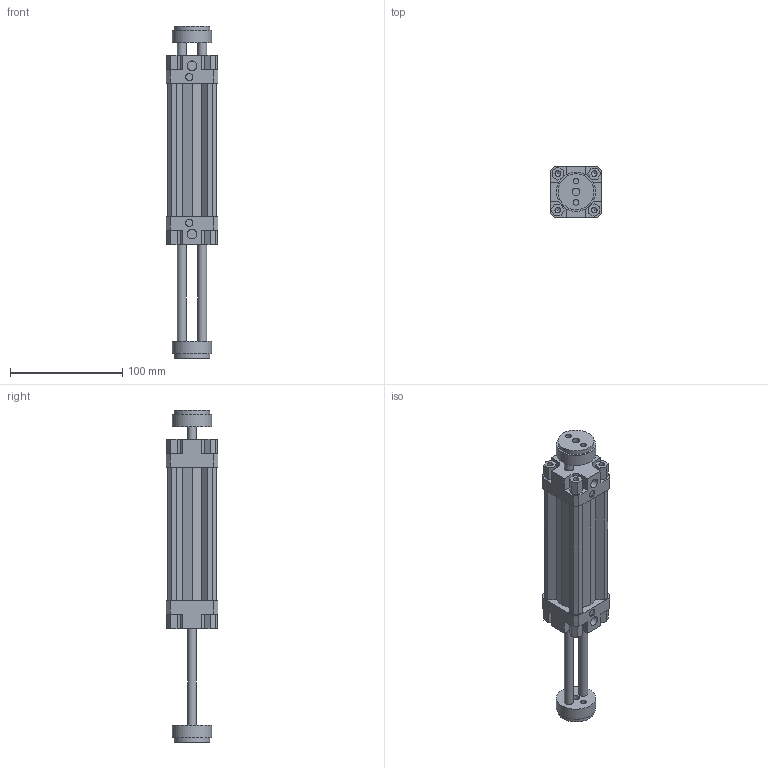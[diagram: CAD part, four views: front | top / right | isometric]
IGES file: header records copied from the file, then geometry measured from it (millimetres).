
Global section: file name: 132#_032_0075_06; native system: Autodesk Inventor 2014; preprocessor: unknown; author: A. Manieri; date: 20161006.154640; units: millimetre
Bounding box: 46 x 46 x 296 mm (x, y, z)
Volume: 245192.9 mm3; surface area: 83686.7 mm2
Topology: 2 solids, 2 shells, 190 faces, 518 edges, 354 vertices
Faces by surface type: bspline 190
